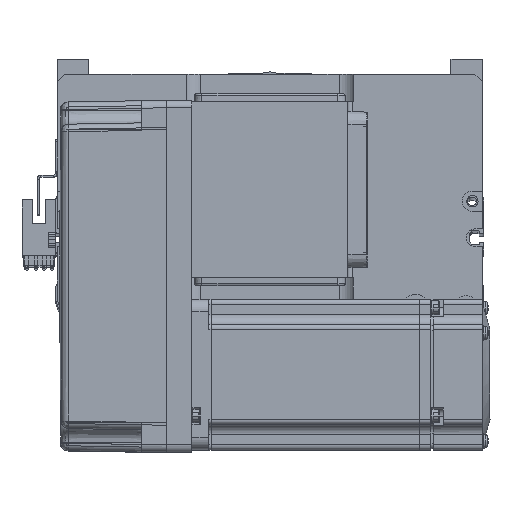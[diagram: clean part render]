
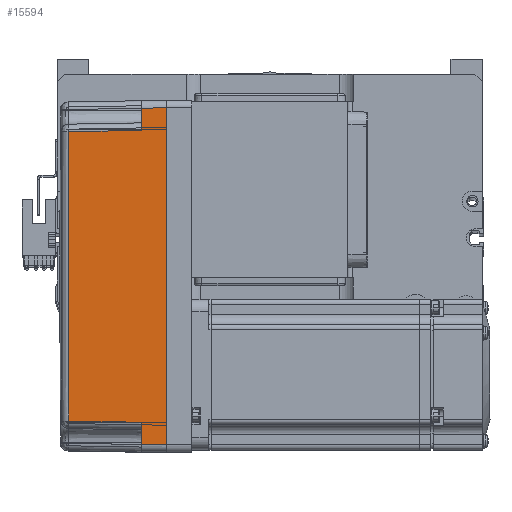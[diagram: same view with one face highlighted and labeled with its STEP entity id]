
A CAD part, top view. The second image highlights one B-rep face of the part: STEP entity #15594.
In plain terms, the highlighted planar face has unit normal (-0.018, 0, 1) as drawn and (0, -1, 0.017) by its records, which use the part's own axes.
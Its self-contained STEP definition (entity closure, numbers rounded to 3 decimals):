
#251 = AXIS2_PLACEMENT_3D ( 'NONE', #37517, #37115, #56069 ) ;
#2217 = VERTEX_POINT ( 'NONE', #8108 ) ;
#2881 = DIRECTION ( 'NONE',  ( -1., 0., 0. ) ) ;
#5721 = CARTESIAN_POINT ( 'NONE',  ( 67., -36., 0. ) ) ;
#5755 = DIRECTION ( 'NONE',  ( -0.017, 0.017, 1. ) ) ;
#8108 = CARTESIAN_POINT ( 'NONE',  ( 57.495, -35.32, 38.985 ) ) ;
#8539 = CARTESIAN_POINT ( 'NONE',  ( -66.959, -35.958, 2.39 ) ) ;
#8748 = CARTESIAN_POINT ( 'NONE',  ( -57.495, -35.32, 38.985 ) ) ;
#8809 = CARTESIAN_POINT ( 'NONE',  ( -67., -36., 0. ) ) ;
#9486 = VECTOR ( 'NONE', #46476, 1000. ) ;
#10078 = CARTESIAN_POINT ( 'NONE',  ( 58., -35.825, 10. ) ) ;
#12525 = FACE_OUTER_BOUND ( 'NONE', #43070, .T. ) ;
#12741 = EDGE_CURVE ( 'NONE', #18647, #59222, #37773, .T. ) ;
#12796 = VECTOR ( 'NONE', #29428, 1000. ) ;
#14013 = CARTESIAN_POINT ( 'NONE',  ( -19.165, -35.316, 39.181 ) ) ;
#15106 = ORIENTED_EDGE ( 'NONE', *, *, #43739, .T. ) ;
#15594 = ADVANCED_FACE ( 'NONE', ( #12525 ), #28114, .T. ) ;
#18647 = VERTEX_POINT ( 'NONE', #25843 ) ;
#18989 = ORIENTED_EDGE ( 'NONE', *, *, #12741, .F. ) ;
#19066 = ORIENTED_EDGE ( 'NONE', *, *, #45964, .T. ) ;
#19730 = EDGE_CURVE ( 'NONE', #33192, #2217, #46282, .T. ) ;
#23070 = CARTESIAN_POINT ( 'NONE',  ( -58., -35.825, 10. ) ) ;
#25300 = LINE ( 'NONE', #5721, #12796 ) ;
#25843 = CARTESIAN_POINT ( 'NONE',  ( 67., -36., 0. ) ) ;
#27101 = LINE ( 'NONE', #40397, #60647 ) ;
#27202 = CARTESIAN_POINT ( 'NONE',  ( 70., -35.825, 10. ) ) ;
#28114 = PLANE ( 'NONE',  #251 ) ;
#28274 = CARTESIAN_POINT ( 'NONE',  ( 57.495, -35.32, 38.985 ) ) ;
#29408 = VERTEX_POINT ( 'NONE', #50028 ) ;
#29428 = DIRECTION ( 'NONE',  ( -0.017, 0.017, 1. ) ) ;
#29568 = VECTOR ( 'NONE', #34108, 1000. ) ;
#30527 = CARTESIAN_POINT ( 'NONE',  ( 70., -35.825, 10. ) ) ;
#31189 = EDGE_CURVE ( 'NONE', #59222, #58054, #42847, .T. ) ;
#31308 = CARTESIAN_POINT ( 'NONE',  ( 58., -35.825, 10. ) ) ;
#33192 = VERTEX_POINT ( 'NONE', #31308 ) ;
#33513 = LINE ( 'NONE', #27202, #49187 ) ;
#34108 = DIRECTION ( 'NONE',  ( -1., 0., 0. ) ) ;
#34114 = EDGE_CURVE ( 'NONE', #29408, #33192, #42921, .T. ) ;
#34523 = CARTESIAN_POINT ( 'NONE',  ( -57.495, -35.32, 38.985 ) ) ;
#37115 = DIRECTION ( 'NONE',  ( 0., -1., 0.017 ) ) ;
#37517 = CARTESIAN_POINT ( 'NONE',  ( 70., -36., 0. ) ) ;
#37773 = LINE ( 'NONE', #38921, #29568 ) ;
#38921 = CARTESIAN_POINT ( 'NONE',  ( 0., -36., 0. ) ) ;
#40397 = CARTESIAN_POINT ( 'NONE',  ( -57.495, -35.32, 38.985 ) ) ;
#40534 = ORIENTED_EDGE ( 'NONE', *, *, #34114, .T. ) ;
#42847 = LINE ( 'NONE', #8539, #9486 ) ;
#42921 = LINE ( 'NONE', #30527, #60064 ) ;
#43070 = EDGE_LOOP ( 'NONE', ( #47037, #40534, #46690, #47306, #15106, #19066, #44260, #18989 ) ) ;
#43739 = EDGE_CURVE ( 'NONE', #50797, #51852, #27101, .T. ) ;
#44260 = ORIENTED_EDGE ( 'NONE', *, *, #31189, .F. ) ;
#45385 = EDGE_CURVE ( 'NONE', #18647, #29408, #25300, .T. ) ;
#45964 = EDGE_CURVE ( 'NONE', #51852, #58054, #33513, .T. ) ;
#46282 = LINE ( 'NONE', #10078, #57407 ) ;
#46476 = DIRECTION ( 'NONE',  ( 0.017, 0.017, 1. ) ) ;
#46690 = ORIENTED_EDGE ( 'NONE', *, *, #19730, .T. ) ;
#47037 = ORIENTED_EDGE ( 'NONE', *, *, #45385, .T. ) ;
#47306 = ORIENTED_EDGE ( 'NONE', *, *, #51781, .T. ) ;
#49187 = VECTOR ( 'NONE', #2881, 1000. ) ;
#49588 = DIRECTION ( 'NONE',  ( -0.017, -0.017, -1. ) ) ;
#50028 = CARTESIAN_POINT ( 'NONE',  ( 66.826, -35.825, 10. ) ) ;
#50797 = VERTEX_POINT ( 'NONE', #34523 ) ;
#51781 = EDGE_CURVE ( 'NONE', #2217, #50797, #53716, .T. ) ;
#51852 = VERTEX_POINT ( 'NONE', #23070 ) ;
#53716 = B_SPLINE_CURVE_WITH_KNOTS ( 'NONE', 3,
 ( #28274, #56836, #14013, #8748 ),
 .UNSPECIFIED., .F., .F.,
 ( 4, 4 ),
 ( 0., 1. ),
 .UNSPECIFIED. ) ;
#54217 = CARTESIAN_POINT ( 'NONE',  ( -66.826, -35.825, 10. ) ) ;
#56069 = DIRECTION ( 'NONE',  ( 0., -0.017, -1. ) ) ;
#56836 = CARTESIAN_POINT ( 'NONE',  ( 19.165, -35.316, 39.181 ) ) ;
#57407 = VECTOR ( 'NONE', #5755, 1000. ) ;
#58054 = VERTEX_POINT ( 'NONE', #54217 ) ;
#59081 = DIRECTION ( 'NONE',  ( -1., 0., 0. ) ) ;
#59222 = VERTEX_POINT ( 'NONE', #8809 ) ;
#60064 = VECTOR ( 'NONE', #59081, 1000. ) ;
#60647 = VECTOR ( 'NONE', #49588, 1000. ) ;
